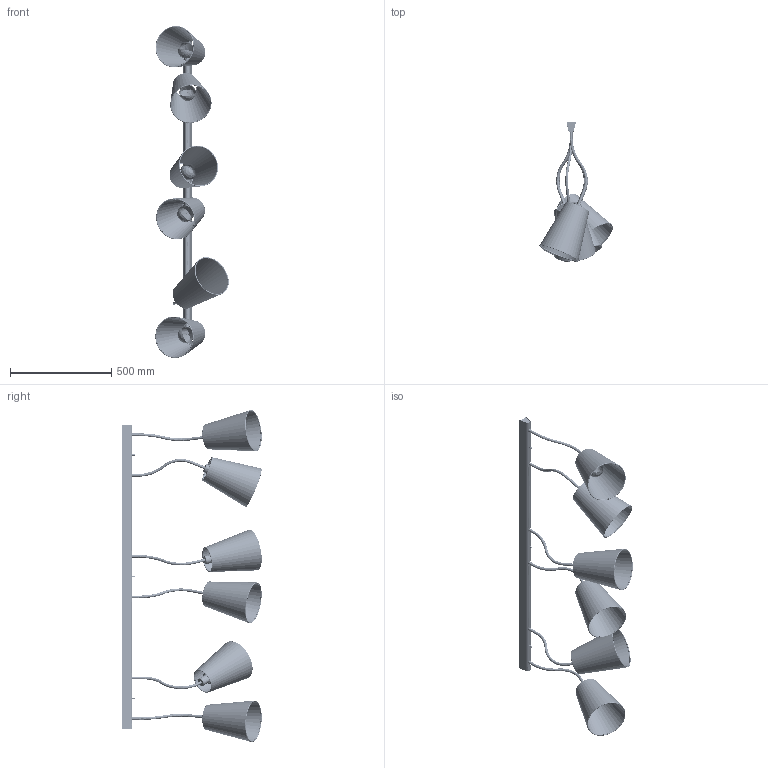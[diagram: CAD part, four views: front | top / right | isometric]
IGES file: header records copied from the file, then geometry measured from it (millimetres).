
Start section: SolidWorks IGES file using analytic representation for surfaces
Global section: file name: E:\3D lampy\Flex shade\Flex shade_9755,9761.IGS; native system: SolidWorks 2016; preprocessor: SolidWorks 2016; author: Asia; date: 170623.130136; units: millimetre
Bounding box: 361.85 x 687.33 x 1637.31 mm (x, y, z)
Surface area: 2895130.4 mm2 (no closed solid volume)
Topology: 0 solids, 0 shells, 2262 faces, 38413 edges, 38407 vertices
Faces by surface type: revolution 1280, bspline 982
